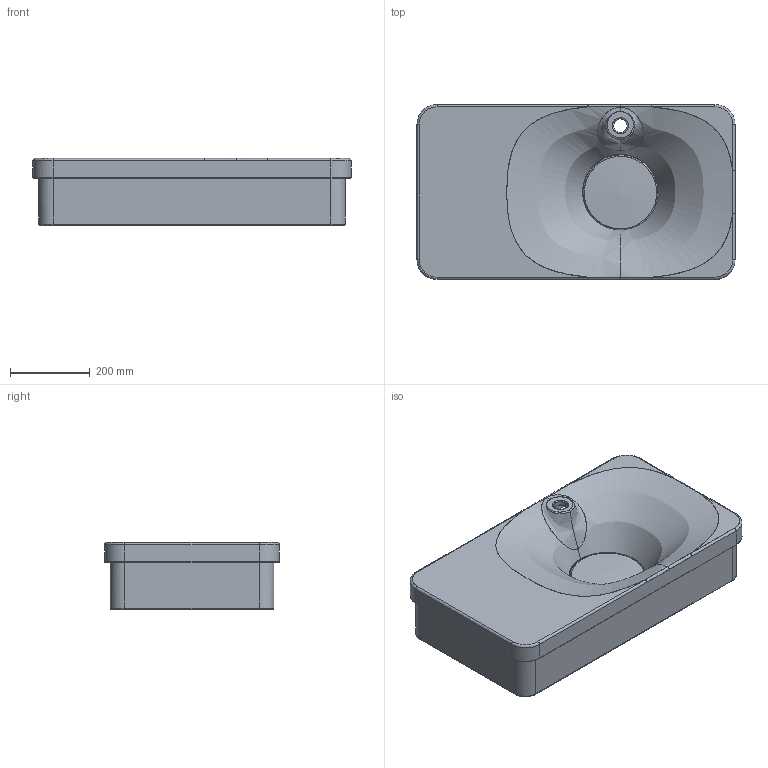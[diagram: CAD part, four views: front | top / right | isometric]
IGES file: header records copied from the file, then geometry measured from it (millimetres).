
Start section: SolidWorks IGES file using analytic representation for surfaces
Global section: file name: C:\Users\Massimiliano\Desktop\3d FUJI\FUJI 80 shelf sx art. 6015\FUJI 80 shelf sx.igs; native system: Rhinoceros ( Mar 28 2013 ); preprocessor: Trout Lake IGES 012 Mar 28 2013; date: 171218.104044; units: millimetre
Bounding box: 799.17 x 439.54 x 169.04 mm (x, y, z)
Surface area: 1720178.4 mm2 (no closed solid volume)
Topology: 0 solids, 0 shells, 140 faces, 2513 edges, 2507 vertices
Faces by surface type: bspline 140
